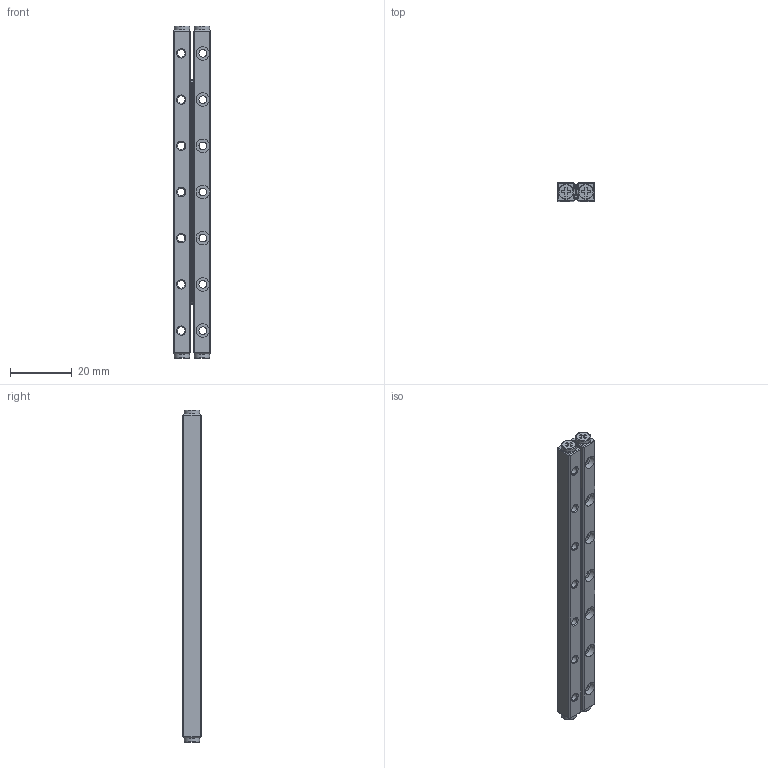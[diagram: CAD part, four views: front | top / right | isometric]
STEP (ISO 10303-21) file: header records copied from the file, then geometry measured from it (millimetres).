
FILE_DESCRIPTION(/* description */ ('Unknown'),/* implementation_level */ '2;1');
FILE_NAME(/* name */ 'VR2-105x18Z',/* time_stamp */ '2025-06-12T09:12:30+08:00',/* author */ ('Unknown'),/* organization */ ('Unknown'),/* preprocessor_version */ 'ST-DEVELOPER v18.102',/* originating_system */ 'Solid Edge',/* authorisation */ 'Unknown');
FILE_SCHEMA (('AUTOMOTIVE_DESIGN {1 0 10303 214 3 1 1}'));
Length unit declared in the file: millimetre
Products named in the file (3): VR2-105x18Z; VR2-105x18Z_rail; VR2-105x18Z_roller
Assembly tree (3 placements, depth 2):
  VR2-105x18Z
    VR2-105x18Z_rail  x2
    VR2-105x18Z_roller
Bounding box: 12 x 6 x 107.8 mm (x, y, z)
Volume: 6268.6 mm3; surface area: 6874.2 mm2
Topology: 3 solids, 3 shells, 428 faces, 1250 edges, 814 vertices
Faces by surface type: plane 280, cylinder 126, cone 14, torus 8
Full cylindrical faces by diameter (mm): 2 x18, 2.459 x14, 4.4 x14, 5 x4
Entity records: 11645 total; most frequent: DIRECTION 1895, CARTESIAN_POINT 1883, ORIENTED_EDGE 1828, EDGE_CURVE 914, AXIS2_PLACEMENT_3D 641, VERTEX_POINT 629, LINE 613, VECTOR 613
